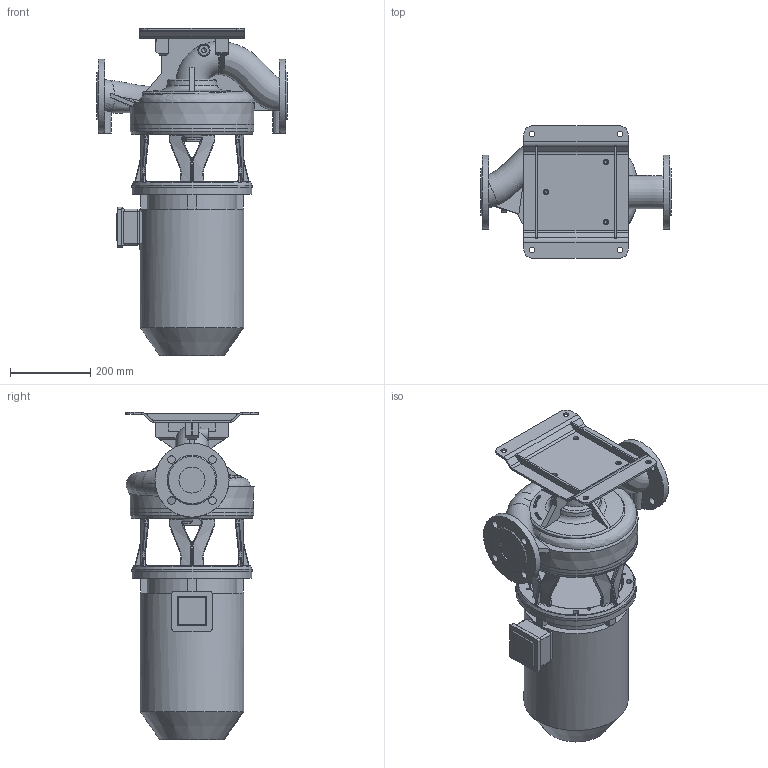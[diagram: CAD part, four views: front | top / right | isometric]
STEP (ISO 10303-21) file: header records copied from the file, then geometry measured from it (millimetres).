
FILE_DESCRIPTION (( 'STEP AP203' ), '1' );
FILE_NAME ('KI65-220_4_5,5kW.STEP', '2024-07-30T06:45:32', ( '' ), ( '' ), 'SwSTEP 2.0', 'SolidWorks 2023', '' );
FILE_SCHEMA (( 'CONFIG_CONTROL_DESIGN' ));
Products named in the file (11): 230034; 440224_solid; 230521; 230568; 230031; KI65-220_4_5,5kW; 220529; 230520; 230033; 230572; 220530
Assembly tree (11 placements, depth 3):
  KI65-220_4_5,5kW
    440224_solid
    230521
      230520
    230568
      230572
    220530
      220529
    230034
      230031
      230033  x2
Bounding box: 475 x 330.18 x 817.35 mm (x, y, z)
Volume: 34816185.7 mm3; surface area: 1670535.5 mm2
Topology: 7 solids, 7 shells, 1020 faces, 2615 edges, 1605 vertices
Faces by surface type: bspline 398, plane 307, cylinder 184, cone 79, torus 52
Full cylindrical faces by diameter (mm): 6 x2, 6.8 x8, 10 x4, 10.2 x11, 11.445 x1, 11.8 x3, 14 x16, 14.5 x7, 15 x8, 19 x8, 65 x2, 185 x2, 225 x1, 230 x1, 243 x1, 255 x2, 260 x1, 300 x2, 308 x2
Entity records: 95320 total; most frequent: CARTESIAN_POINT 73779, ORIENTED_EDGE 4762, DIRECTION 3179, EDGE_CURVE 2381, VERTEX_POINT 1536, EDGE_LOOP 1279, AXIS2_PLACEMENT_3D 1262, FACE_OUTER_BOUND 1098
